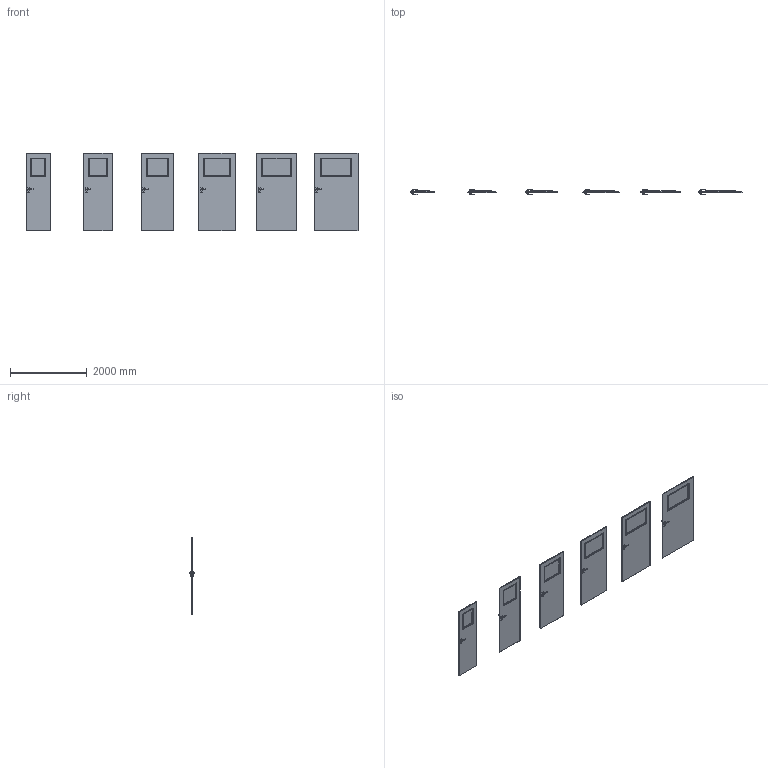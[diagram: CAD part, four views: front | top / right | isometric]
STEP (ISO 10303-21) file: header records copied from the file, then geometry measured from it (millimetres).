
FILE_DESCRIPTION(/* description */ (''),/* implementation_level */ '2;1');
FILE_NAME(/* name */ '049711_A_2-Skrzydło CPL model 1.2_ polska norma _PN__ przylgowe..stp',/* time_stamp */ '2024-02-14T14:24:35+01:00',/* author */ (''),/* organization */ (''),/* preprocessor_version */ 'ST-DEVELOPER v16',/* originating_system */ 'SIEMENS PLM Software NX 11.0',/* authorisation */ '');
FILE_SCHEMA (('AUTOMOTIVE_DESIGN { 1 0 10303 214 3 1 1 1 }'));
Products named in the file (1): bkni07C850E0u9ao
Bounding box: 8644 x 153.27 x 2030 mm (x, y, z)
Volume: 379785719.4 mm3; surface area: 35576086.6 mm2
Topology: 217 solids, 222 shells, 4072 faces, 10386 edges, 6628 vertices
Faces by surface type: plane 2414, bspline 1182, cylinder 308, sphere 168
Entity records: 139016 total; most frequent: CARTESIAN_POINT 49396, ORIENTED_EDGE 20356, DIRECTION 14600, EDGE_CURVE 10218, LINE 6938, VECTOR 6938, VERTEX_POINT 6628, EDGE_LOOP 4156
